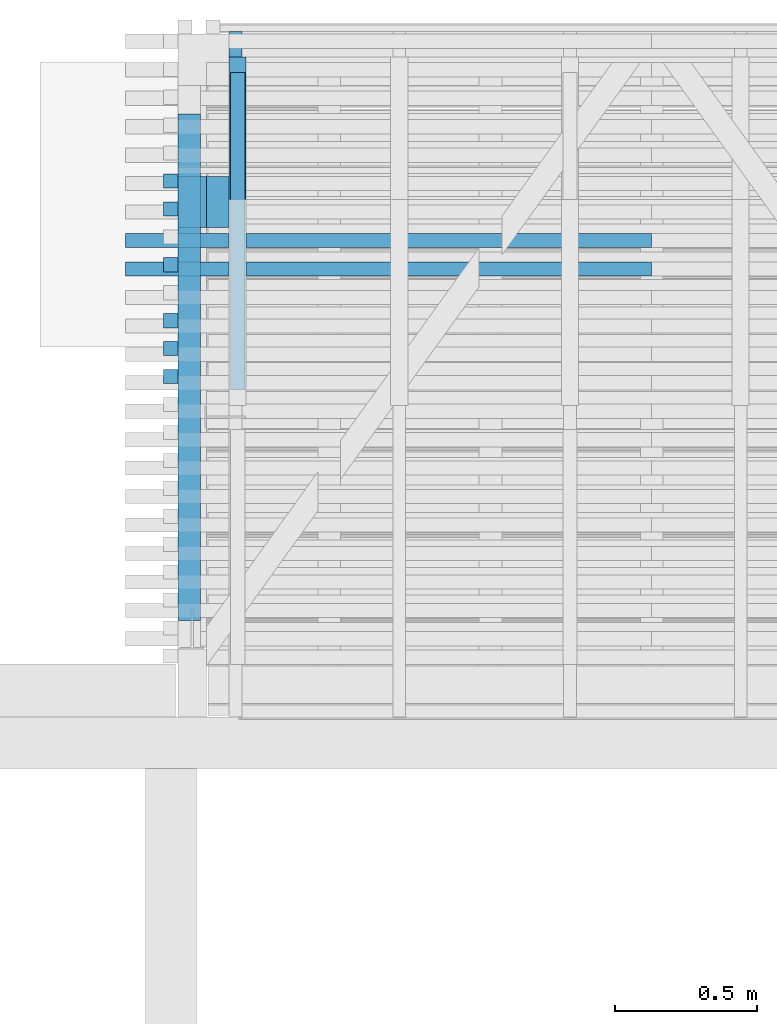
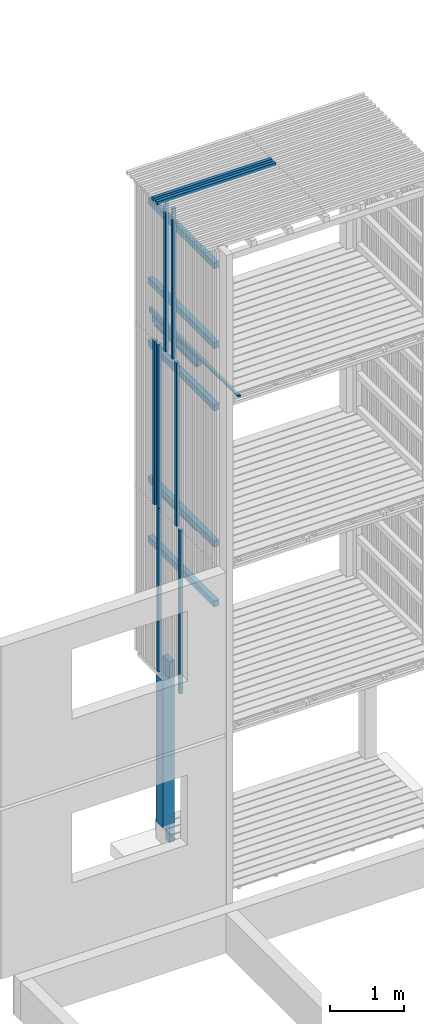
# One storey, part 12 of 182: 19 beams.
"""IFC2X3 building model written with IfcOpenShell, lengths in metres."""

from ifc_helpers import new_model, si_unit, frame, origin, place, context, project, spatial, faceted_brep, element, save


model = new_model("IFC2X3")

# Units and contexts
model_context = context("Model", 3, precision=1e-06, world=origin())
ifc_project = project(units=[si_unit("LENGTHUNIT", "METRE"), si_unit("PLANEANGLEUNIT", "RADIAN")], contexts=[model_context])

# Site, building, storey
site = spatial("IfcSite", under=ifc_project, CompositionType="ELEMENT")
building = spatial("IfcBuilding", under=site, CompositionType="ELEMENT")
storey = spatial("IfcBuildingStorey", under=building, Name="vs", CompositionType="ELEMENT", Elevation=-0.85)

# Beams
placement = place(None, origin())
beam_1_placement = place(placement, frame((3.404197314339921, 12.280077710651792, -0.259999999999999), z_axis=(0.0, -1.0, 0.0), x_axis=(0.0, 0.0, 1.0)))
element("IfcBeam", 1, at=beam_1_placement, inside=storey, Name="Poteau", context=model_context, shape_type="Brep", body=[
    faceted_brep([(0.0, -0.010000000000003, 0.090000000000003), (0.0, -0.010000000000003, -0.009999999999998), (0.0, -0.090000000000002, -0.009999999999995), (0.0, -0.090000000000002, 0.090000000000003), (0.280000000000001, -0.010000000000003, -0.089999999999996), (0.28, -0.010000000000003, 0.090000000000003), (0.28, 0.089999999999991, 0.090000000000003), (0.280000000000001, 0.089999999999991, -0.089999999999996), (0.200000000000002, -0.090000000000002, -0.009999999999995), (0.200000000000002, -0.010000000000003, -0.009999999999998), (0.200000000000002, -0.010000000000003, -0.089999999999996), (0.200000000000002, -0.090000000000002, -0.089999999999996), (0.0, -0.010000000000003, -0.009999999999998), (0.0, -0.010000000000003, 0.090000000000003), (0.28, -0.010000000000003, 0.090000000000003), (0.280000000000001, -0.010000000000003, -0.089999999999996), (0.200000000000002, -0.010000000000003, -0.089999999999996), (0.200000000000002, -0.010000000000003, -0.009999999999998), (0.0, -0.010000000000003, -0.009999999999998), (0.200000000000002, -0.010000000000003, -0.009999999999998), (0.200000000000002, -0.090000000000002, -0.009999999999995), (0.0, -0.090000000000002, -0.009999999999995), (0.280000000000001, 0.089999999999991, -0.089999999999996), (0.28, 0.089999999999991, 0.090000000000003), (2.699999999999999, 0.089999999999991, 0.090000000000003), (2.699999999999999, 0.089999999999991, -0.089999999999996), (2.979999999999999, -0.010000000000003, 0.090000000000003), (2.699999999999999, -0.010000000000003, 0.090000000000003), (2.699999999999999, 0.089999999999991, 0.090000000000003), (0.28, 0.089999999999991, 0.090000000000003), (0.28, -0.010000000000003, 0.090000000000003), (0.0, -0.010000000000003, 0.090000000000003), (0.0, -0.090000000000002, 0.090000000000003), (2.979999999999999, -0.090000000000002, 0.090000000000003), (2.979999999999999, -0.090000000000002, 0.090000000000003), (0.0, -0.090000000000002, 0.090000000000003), (0.0, -0.090000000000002, -0.009999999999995), (0.200000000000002, -0.090000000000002, -0.009999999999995), (0.200000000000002, -0.090000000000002, -0.089999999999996), (2.979999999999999, -0.090000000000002, -0.089999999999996), (2.979999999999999, -0.010000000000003, -0.089999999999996), (2.979999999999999, -0.090000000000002, -0.089999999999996), (0.200000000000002, -0.090000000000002, -0.089999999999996), (0.200000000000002, -0.010000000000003, -0.089999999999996), (0.280000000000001, -0.010000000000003, -0.089999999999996), (0.280000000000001, 0.089999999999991, -0.089999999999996), (2.699999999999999, 0.089999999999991, -0.089999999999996), (2.699999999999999, -0.010000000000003, -0.089999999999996), (2.699999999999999, -0.010000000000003, -0.089999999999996), (2.699999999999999, 0.089999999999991, -0.089999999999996), (2.699999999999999, 0.089999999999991, 0.090000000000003), (2.699999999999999, -0.010000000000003, 0.090000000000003), (2.979999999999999, -0.010000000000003, -0.089999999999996), (2.699999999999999, -0.010000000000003, -0.089999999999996), (2.699999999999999, -0.010000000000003, 0.090000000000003), (2.979999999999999, -0.010000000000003, 0.090000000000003), (2.979999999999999, -0.010000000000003, -0.089999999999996), (2.979999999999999, -0.010000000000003, 0.090000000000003), (2.979999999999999, -0.090000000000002, 0.090000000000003), (2.979999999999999, -0.090000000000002, -0.089999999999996)], [[[0, 1, 2, 3]], [[4, 5, 6, 7]], [[8, 9, 10, 11]], [[12, 13, 14, 15, 16, 17]], [[18, 19, 20, 21]], [[22, 23, 24, 25]], [[26, 27, 28, 29, 30, 31, 32, 33]], [[34, 35, 36, 37, 38, 39]], [[40, 41, 42, 43, 44, 45, 46, 47]], [[48, 49, 50, 51]], [[52, 53, 54, 55]], [[56, 57, 58, 59]]]),
])
for number, where, z_axis, x_axis, name in (
    (2, (3.354197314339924, 10.810077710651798, 4.543749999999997), (0.0, 0.0, 1.0), (0.0, 1.0, 0.0), "Support bardage"),
    (3, (3.354197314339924, 10.810077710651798, 8.80124999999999), (0.0, 0.0, 1.0), (0.0, 1.0, 0.0), "Support bardage"),
):
    element("IfcBeam", number, at=place(placement, frame(where, z_axis=z_axis, x_axis=x_axis)), inside=storey, Name=name, context=model_context, shape_type="Brep", body=[
        faceted_brep([(1.779999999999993, 0.039999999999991, -0.050000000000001), (1.779999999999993, 0.039999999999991, 0.050000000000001), (1.779999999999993, -0.040000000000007, 0.050000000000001), (1.779999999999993, -0.040000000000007, -0.050000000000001), (1.779999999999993, -0.040000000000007, 0.050000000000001), (1.779999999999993, 0.039999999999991, 0.050000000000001), (-4e-15, 0.039999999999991, 0.050000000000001), (-4e-15, -0.040000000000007, 0.050000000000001), (-4e-15, 0.039999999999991, 0.050000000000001), (1.779999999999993, 0.039999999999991, 0.050000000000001), (1.779999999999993, 0.039999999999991, -0.050000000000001), (-4e-15, 0.039999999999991, -0.050000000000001), (1.779999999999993, -0.040000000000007, -0.050000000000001), (1.779999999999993, -0.040000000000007, 0.050000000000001), (-4e-15, -0.040000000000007, 0.050000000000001), (-4e-15, -0.040000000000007, -0.050000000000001), (-4e-15, 0.039999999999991, -0.050000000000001), (1.779999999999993, 0.039999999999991, -0.050000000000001), (1.779999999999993, -0.040000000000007, -0.050000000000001), (-4e-15, -0.040000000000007, -0.050000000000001), (-4e-15, 0.039999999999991, 0.050000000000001), (-4e-15, 0.039999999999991, -0.050000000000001), (-4e-15, -0.040000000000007, -0.050000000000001), (-4e-15, -0.040000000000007, 0.050000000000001)], [[[0, 1, 2, 3]], [[4, 5, 6, 7]], [[8, 9, 10, 11]], [[12, 13, 14, 15]], [[16, 17, 18, 19]], [[20, 21, 22, 23]]]),
    ])
beam_2_placement = place(placement, frame((3.289197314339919, 12.25598680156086, 5.274999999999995), z_axis=(1.0, 0.0, 0.0), x_axis=(0.0, 0.0, 1.0)))
element("IfcBeam", 4, at=beam_2_placement, inside=storey, Name="Bardage", context=model_context, shape_type="Brep", body=[
    faceted_brep([(2.699999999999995, 0.024999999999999, 0.025000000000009), (2.699999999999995, -0.025000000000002, 0.025000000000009), (2.699999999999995, -0.025000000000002, -0.025000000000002), (2.699999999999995, 0.024999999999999, -0.025000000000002), (1e-15, 0.024999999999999, 0.025000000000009), (2.699999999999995, 0.024999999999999, 0.025000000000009), (2.699999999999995, 0.024999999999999, -0.025000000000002), (1e-15, 0.024999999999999, -0.025000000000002), (1e-15, -0.025000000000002, 0.025000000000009), (1e-15, 0.024999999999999, 0.025000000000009), (1e-15, 0.024999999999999, -0.025000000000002), (1e-15, -0.025000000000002, -0.025000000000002), (1e-15, 0.024999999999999, 0.025000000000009), (1e-15, -0.025000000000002, 0.025000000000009), (2.699999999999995, -0.025000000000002, 0.025000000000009), (2.699999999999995, 0.024999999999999, 0.025000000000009), (1e-15, -0.025000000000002, 0.025000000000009), (1e-15, -0.025000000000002, -0.025000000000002), (2.699999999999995, -0.025000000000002, -0.025000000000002), (2.699999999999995, -0.025000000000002, 0.025000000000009), (1e-15, -0.025000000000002, -0.025000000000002), (1e-15, 0.024999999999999, -0.025000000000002), (2.699999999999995, 0.024999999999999, -0.025000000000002), (2.699999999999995, -0.025000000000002, -0.025000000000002)], [[[0, 1, 2, 3]], [[4, 5, 6, 7]], [[8, 9, 10, 11]], [[12, 13, 14, 15]], [[16, 17, 18, 19]], [[20, 21, 22, 23]]]),
])
beam_3_placement = place(placement, frame((3.354197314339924, 10.810077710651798, 10.114999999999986), z_axis=(0.0, 0.0, 1.0), x_axis=(0.0, 1.0, 0.0)))
element("IfcBeam", 5, at=beam_3_placement, inside=storey, Name="Support bardage", context=model_context, shape_type="Brep", body=[
    faceted_brep([(1.779999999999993, 0.039999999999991, -0.050000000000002), (1.779999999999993, 0.039999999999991, 0.050000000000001), (1.779999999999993, -0.040000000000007, 0.050000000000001), (1.779999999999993, -0.040000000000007, -0.050000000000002), (1.779999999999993, -0.040000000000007, 0.050000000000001), (1.779999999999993, 0.039999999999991, 0.050000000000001), (-4e-15, 0.039999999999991, 0.050000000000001), (-4e-15, -0.040000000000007, 0.050000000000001), (-4e-15, 0.039999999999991, 0.050000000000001), (1.779999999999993, 0.039999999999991, 0.050000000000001), (1.779999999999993, 0.039999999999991, -0.050000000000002), (-4e-15, 0.039999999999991, -0.050000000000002), (1.779999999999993, -0.040000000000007, -0.050000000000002), (1.779999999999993, -0.040000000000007, 0.050000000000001), (-4e-15, -0.040000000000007, 0.050000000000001), (-4e-15, -0.040000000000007, -0.050000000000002), (-4e-15, 0.039999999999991, -0.050000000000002), (1.779999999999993, 0.039999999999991, -0.050000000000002), (1.779999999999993, -0.040000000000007, -0.050000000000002), (-4e-15, -0.040000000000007, -0.050000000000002), (-4e-15, 0.039999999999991, 0.050000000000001), (-4e-15, 0.039999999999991, -0.050000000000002), (-4e-15, -0.040000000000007, -0.050000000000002), (-4e-15, -0.040000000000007, 0.050000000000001)], [[[0, 1, 2, 3]], [[4, 5, 6, 7]], [[8, 9, 10, 11]], [[12, 13, 14, 15]], [[16, 17, 18, 19]], [[20, 21, 22, 23]]]),
])
beam_4_placement = place(placement, frame((3.354197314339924, 10.810077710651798, 5.529999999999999), z_axis=(0.0, 0.0, 1.0), x_axis=(0.0, 1.0, 0.0)))
element("IfcBeam", 6, at=beam_4_placement, inside=storey, Name="Support bardage", context=model_context, shape_type="Brep", body=[
    faceted_brep([(1.779999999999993, 0.039999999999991, -0.050000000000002), (1.779999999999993, 0.039999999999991, 0.05), (1.779999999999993, -0.040000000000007, 0.05), (1.779999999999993, -0.040000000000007, -0.050000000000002), (1.779999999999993, -0.040000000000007, 0.05), (1.779999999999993, 0.039999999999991, 0.05), (-4e-15, 0.039999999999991, 0.05), (-4e-15, -0.040000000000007, 0.05), (-4e-15, 0.039999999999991, 0.05), (1.779999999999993, 0.039999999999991, 0.05), (1.779999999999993, 0.039999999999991, -0.050000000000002), (-4e-15, 0.039999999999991, -0.050000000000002), (1.779999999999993, -0.040000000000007, -0.050000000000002), (1.779999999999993, -0.040000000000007, 0.05), (-4e-15, -0.040000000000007, 0.05), (-4e-15, -0.040000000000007, -0.050000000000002), (-4e-15, 0.039999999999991, -0.050000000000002), (1.779999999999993, 0.039999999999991, -0.050000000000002), (1.779999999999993, -0.040000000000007, -0.050000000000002), (-4e-15, -0.040000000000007, -0.050000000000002), (-4e-15, 0.039999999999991, 0.05), (-4e-15, 0.039999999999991, -0.050000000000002), (-4e-15, -0.040000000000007, -0.050000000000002), (-4e-15, -0.040000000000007, 0.05)], [[[0, 1, 2, 3]], [[4, 5, 6, 7]], [[8, 9, 10, 11]], [[12, 13, 14, 15]], [[16, 17, 18, 19]], [[20, 21, 22, 23]]]),
])
beam_5_placement = place(placement, frame((3.524197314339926, 12.735077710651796, 5.217399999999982), z_axis=(0.0, 0.0, 1.0), x_axis=(0.0, -1.0, 0.0)))
element("IfcBeam", 7, at=beam_5_placement, inside=storey, Name="Calage", context=model_context, shape_type="Brep", body=[
    faceted_brep([(0.0, 0.025000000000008, -0.024999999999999), (0.0, -0.024999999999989, -0.024999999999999), (0.0, -0.024999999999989, 0.024999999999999), (0.0, 0.025000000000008, 0.024999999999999), (1.115000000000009, -0.024999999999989, 0.024999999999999), (1.115000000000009, -0.024999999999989, -0.024999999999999), (1.115000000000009, 0.025000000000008, -0.024999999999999), (1.115000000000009, 0.025000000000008, 0.024999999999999), (0.0, -0.024999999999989, 0.024999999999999), (0.0, -0.024999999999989, -0.024999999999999), (1.115000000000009, -0.024999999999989, -0.024999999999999), (1.115000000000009, -0.024999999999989, 0.024999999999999), (1.115000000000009, -0.024999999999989, -0.024999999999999), (0.0, -0.024999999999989, -0.024999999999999), (0.0, 0.025000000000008, -0.024999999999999), (1.115000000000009, 0.025000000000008, -0.024999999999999), (1.115000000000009, 0.025000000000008, -0.024999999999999), (0.0, 0.025000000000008, -0.024999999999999), (0.0, 0.025000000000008, 0.024999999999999), (1.115000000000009, 0.025000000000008, 0.024999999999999), (1.115000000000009, 0.025000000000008, 0.024999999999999), (0.0, 0.025000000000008, 0.024999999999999), (0.0, -0.024999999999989, 0.024999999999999), (1.115000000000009, -0.024999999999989, 0.024999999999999)], [[[0, 1, 2, 3]], [[4, 5, 6, 7]], [[8, 9, 10, 11]], [[12, 13, 14, 15]], [[16, 17, 18, 19]], [[20, 21, 22, 23]]]),
])
beam_6_placement = place(placement, frame((3.516697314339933, 10.470077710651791, 8.084400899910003), z_axis=(0.0, 0.0, 1.0), x_axis=(0.0, 1.0, 0.0)))
element("IfcBeam", 8, at=beam_6_placement, inside=storey, Name="Calage", context=model_context, shape_type="Brep", body=[
    faceted_brep([(2.41000000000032, -0.022499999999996, -0.035599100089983), (0.0, -0.022499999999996, 0.012600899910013), (0.0, 0.022500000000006, 0.012600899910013), (2.41000000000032, 0.022500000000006, -0.035599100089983), (0.0, 0.022500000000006, 0.035599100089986), (0.0, 0.022500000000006, 0.012600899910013), (0.0, -0.022499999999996, 0.012600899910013), (0.0, -0.022499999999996, 0.035599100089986), (2.41000000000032, 0.022500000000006, -0.035599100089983), (0.0, 0.022500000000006, 0.012600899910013), (0.0, 0.022500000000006, 0.035599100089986), (2.41000000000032, 0.022500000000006, 0.035599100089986), (2.41000000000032, -0.022499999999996, 0.035599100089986), (0.0, -0.022499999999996, 0.035599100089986), (0.0, -0.022499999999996, 0.012600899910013), (2.41000000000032, -0.022499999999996, -0.035599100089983), (2.41000000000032, 0.022500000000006, 0.035599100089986), (0.0, 0.022500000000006, 0.035599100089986), (0.0, -0.022499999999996, 0.035599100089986), (2.41000000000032, -0.022499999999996, 0.035599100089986), (2.41000000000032, 0.022500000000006, -0.035599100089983), (2.41000000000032, 0.022500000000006, 0.035599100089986), (2.41000000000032, -0.022499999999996, 0.035599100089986), (2.41000000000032, -0.022499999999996, -0.035599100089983)], [[[0, 1, 2, 3]], [[4, 5, 6, 7]], [[8, 9, 10, 11]], [[12, 13, 14, 15]], [[16, 17, 18, 19]], [[20, 21, 22, 23]]]),
])
beam_7_placement = place(placement, frame((3.289197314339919, 12.25598680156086, 2.575000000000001), z_axis=(1.0, 0.0, 0.0), x_axis=(0.0, 0.0, 1.0)))
element("IfcBeam", 9, at=beam_7_placement, inside=storey, Name="Bardage", context=model_context, shape_type="Brep", body=[
    faceted_brep([(2.699961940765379, -0.025000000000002, 0.025000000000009), (2.699961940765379, -0.025000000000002, -0.025000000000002), (2.699961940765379, 0.024999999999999, -0.025000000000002), (2.699961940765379, 0.024999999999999, 0.025000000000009), (0.0, -0.025000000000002, 0.025000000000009), (2.699961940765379, -0.025000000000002, 0.025000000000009), (2.699961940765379, 0.024999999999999, 0.025000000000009), (0.0, 0.024999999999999, 0.025000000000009), (0.0, -0.025000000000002, 0.025000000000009), (0.0, 0.024999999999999, 0.025000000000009), (0.0, 0.024999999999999, -0.025000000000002), (0.0, -0.025000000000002, -0.025000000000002), (0.0, -0.025000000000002, 0.025000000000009), (0.0, -0.025000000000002, -0.025000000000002), (2.699961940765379, -0.025000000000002, -0.025000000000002), (2.699961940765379, -0.025000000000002, 0.025000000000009), (0.0, -0.025000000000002, -0.025000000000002), (0.0, 0.024999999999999, -0.025000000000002), (2.699961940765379, 0.024999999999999, -0.025000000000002), (2.699961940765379, -0.025000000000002, -0.025000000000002), (0.0, 0.024999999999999, -0.025000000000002), (0.0, 0.024999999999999, 0.025000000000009), (2.699961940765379, 0.024999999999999, 0.025000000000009), (2.699961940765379, 0.024999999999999, -0.025000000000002)], [[[0, 1, 2, 3]], [[4, 5, 6, 7]], [[8, 9, 10, 11]], [[12, 13, 14, 15]], [[16, 17, 18, 19]], [[20, 21, 22, 23]]]),
])
beam_8_placement = place(placement, frame((3.289197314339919, 12.059623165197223, 7.974999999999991), z_axis=(1.0, 0.0, 0.0), x_axis=(0.0, 0.0, 1.0)))
element("IfcBeam", 10, at=beam_8_placement, inside=storey, Name="Bardage", context=model_context, shape_type="Brep", body=[
    faceted_brep([(0.0, -0.025000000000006, 0.025000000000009), (0.0, 0.024999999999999, 0.025000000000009), (0.0, 0.024999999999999, -0.025000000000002), (0.0, -0.025000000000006, -0.025000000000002), (2.479999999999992, 0.024999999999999, -0.025000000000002), (2.479999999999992, 0.024999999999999, 0.025000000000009), (2.479999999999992, -0.025000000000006, 0.025000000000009), (2.479999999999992, -0.025000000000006, -0.025000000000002), (0.0, 0.024999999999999, 0.025000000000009), (0.0, -0.025000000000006, 0.025000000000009), (2.479999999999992, -0.025000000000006, 0.025000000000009), (2.479999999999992, 0.024999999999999, 0.025000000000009), (0.0, 0.024999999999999, -0.025000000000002), (0.0, 0.024999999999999, 0.025000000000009), (2.479999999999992, 0.024999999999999, 0.025000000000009), (2.479999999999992, 0.024999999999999, -0.025000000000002), (0.0, -0.025000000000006, -0.025000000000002), (0.0, 0.024999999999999, -0.025000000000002), (2.479999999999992, 0.024999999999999, -0.025000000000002), (2.479999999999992, -0.025000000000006, -0.025000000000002), (2.479999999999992, -0.025000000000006, 0.025000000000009), (0.0, -0.025000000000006, 0.025000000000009), (0.0, -0.025000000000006, -0.025000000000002), (2.479999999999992, -0.025000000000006, -0.025000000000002)], [[[0, 1, 2, 3]], [[4, 5, 6, 7]], [[8, 9, 10, 11]], [[12, 13, 14, 15]], [[16, 17, 18, 19]], [[20, 21, 22, 23]]]),
])
beam_9_placement = place(placement, frame((4.979197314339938, 12.145077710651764, 10.47999999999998), z_axis=(0.0, 0.0, 1.0), x_axis=(-1.0, 0.0, 0.0)))
element("IfcBeam", 11, at=beam_9_placement, inside=storey, Name="Bardage", context=model_context, shape_type="Brep", body=[
    faceted_brep([(1.850000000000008, -0.024999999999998, -0.024999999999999), (1.850000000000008, -0.024999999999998, 0.025000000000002), (-1e-15, -0.025000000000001, 0.025000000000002), (-1e-15, -0.025000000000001, -0.024999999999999), (1.850000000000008, -0.024999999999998, 0.025000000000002), (1.850000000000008, -0.024999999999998, -0.024999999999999), (1.850000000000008, 0.024999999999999, -0.024999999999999), (1.850000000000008, 0.024999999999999, 0.025000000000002), (1.850000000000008, 0.024999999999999, -0.024999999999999), (1.850000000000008, -0.024999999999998, -0.024999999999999), (-1e-15, -0.025000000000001, -0.024999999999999), (-1e-15, 0.024999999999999, -0.024999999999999), (1.850000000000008, 0.024999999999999, 0.025000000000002), (1.850000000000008, 0.024999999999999, -0.024999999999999), (-1e-15, 0.024999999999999, -0.024999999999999), (-1e-15, 0.024999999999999, 0.025000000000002), (-1e-15, -0.025000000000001, 0.025000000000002), (1.850000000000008, -0.024999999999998, 0.025000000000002), (1.850000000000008, 0.024999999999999, 0.025000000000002), (-1e-15, 0.024999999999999, 0.025000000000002), (-1e-15, -0.025000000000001, -0.024999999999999), (-1e-15, -0.025000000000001, 0.025000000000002), (-1e-15, 0.024999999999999, 0.025000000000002), (-1e-15, 0.024999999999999, -0.024999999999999)], [[[0, 1, 2, 3]], [[4, 5, 6, 7]], [[8, 9, 10, 11]], [[12, 13, 14, 15]], [[16, 17, 18, 19]], [[20, 21, 22, 23]]]),
])
beam_10_placement = place(placement, frame((3.289197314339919, 11.765077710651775, 5.274999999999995), z_axis=(1.0, 0.0, 0.0), x_axis=(0.0, 1e-15, 1.0)))
element("IfcBeam", 12, at=beam_10_placement, inside=storey, Name="Bardage", context=model_context, shape_type="Brep", body=[
    faceted_brep([(2.699999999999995, 0.025000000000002, 0.025000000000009), (2.699999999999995, -0.025000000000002, 0.025000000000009), (2.699999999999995, -0.025000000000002, -0.025000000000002), (2.699999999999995, 0.025000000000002, -0.025000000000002), (1e-15, 0.024999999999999, 0.025000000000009), (2.699999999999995, 0.025000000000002, 0.025000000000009), (2.699999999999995, 0.025000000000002, -0.025000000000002), (1e-15, 0.024999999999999, -0.025000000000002), (1e-15, -0.025000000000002, 0.025000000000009), (1e-15, 0.024999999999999, 0.025000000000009), (1e-15, 0.024999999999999, -0.025000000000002), (1e-15, -0.025000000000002, -0.025000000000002), (1e-15, 0.024999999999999, 0.025000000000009), (1e-15, -0.025000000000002, 0.025000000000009), (2.699999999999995, -0.025000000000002, 0.025000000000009), (2.699999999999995, 0.025000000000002, 0.025000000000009), (1e-15, -0.025000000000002, 0.025000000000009), (1e-15, -0.025000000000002, -0.025000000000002), (2.699999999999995, -0.025000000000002, -0.025000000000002), (2.699999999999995, -0.025000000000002, 0.025000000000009), (1e-15, -0.025000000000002, -0.025000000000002), (1e-15, 0.024999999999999, -0.025000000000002), (2.699999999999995, 0.025000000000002, -0.025000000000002), (2.699999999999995, -0.025000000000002, -0.025000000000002)], [[[0, 1, 2, 3]], [[4, 5, 6, 7]], [[8, 9, 10, 11]], [[12, 13, 14, 15]], [[16, 17, 18, 19]], [[20, 21, 22, 23]]]),
])
beam_11_placement = place(placement, frame((3.289197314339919, 12.35416861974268, 5.274999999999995), z_axis=(1.0, 0.0, 0.0), x_axis=(0.0, 0.0, 1.0)))
element("IfcBeam", 13, at=beam_11_placement, inside=storey, Name="Bardage", context=model_context, shape_type="Brep", body=[
    faceted_brep([(2.699999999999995, 0.025000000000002, 0.025000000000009), (2.699999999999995, -0.024999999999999, 0.025000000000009), (2.699999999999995, -0.024999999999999, -0.025000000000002), (2.699999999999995, 0.025000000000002, -0.025000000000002), (1e-15, 0.025000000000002, 0.025000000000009), (2.699999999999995, 0.025000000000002, 0.025000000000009), (2.699999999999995, 0.025000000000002, -0.025000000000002), (1e-15, 0.025000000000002, -0.025000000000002), (1e-15, -0.024999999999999, 0.025000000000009), (1e-15, 0.025000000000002, 0.025000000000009), (1e-15, 0.025000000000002, -0.025000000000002), (1e-15, -0.024999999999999, -0.025000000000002), (1e-15, 0.025000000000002, 0.025000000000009), (1e-15, -0.024999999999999, 0.025000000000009), (2.699999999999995, -0.024999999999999, 0.025000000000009), (2.699999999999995, 0.025000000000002, 0.025000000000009), (1e-15, -0.024999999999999, 0.025000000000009), (1e-15, -0.024999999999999, -0.025000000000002), (2.699999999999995, -0.024999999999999, -0.025000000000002), (2.699999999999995, -0.024999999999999, 0.025000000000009), (1e-15, -0.024999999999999, -0.025000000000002), (1e-15, 0.025000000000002, -0.025000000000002), (2.699999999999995, 0.025000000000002, -0.025000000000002), (2.699999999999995, -0.024999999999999, -0.025000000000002)], [[[0, 1, 2, 3]], [[4, 5, 6, 7]], [[8, 9, 10, 11]], [[12, 13, 14, 15]], [[16, 17, 18, 19]], [[20, 21, 22, 23]]]),
])
beam_12_placement = place(placement, frame((3.524197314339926, 11.565077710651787, 8.00424999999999), z_axis=(0.0, 0.0, 1.0), x_axis=(0.0, 1.0, 0.0)))
element("IfcBeam", 14, at=beam_12_placement, inside=storey, Name="Solive", context=model_context, shape_type="Brep", body=[
    faceted_brep([(0.0, -0.030000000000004, -0.061849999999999), (1.225000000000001, -0.030000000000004, -0.061849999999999), (1.225000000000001, -0.030000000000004, 0.037349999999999), (0.0, -0.030000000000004, 0.061849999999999), (0.0, 0.029999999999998, -0.061849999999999), (1.225000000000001, 0.029999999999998, -0.061849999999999), (1.225000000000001, -0.030000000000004, -0.061849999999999), (0.0, -0.030000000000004, -0.061849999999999), (0.0, 0.029999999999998, 0.061850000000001), (0.0, 0.029999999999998, -0.061849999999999), (0.0, -0.030000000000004, -0.061849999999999), (0.0, -0.030000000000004, 0.061849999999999), (1.225000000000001, 0.029999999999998, -0.061849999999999), (0.0, 0.029999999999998, -0.061849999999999), (0.0, 0.029999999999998, 0.061850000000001), (1.225000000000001, 0.029999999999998, 0.037349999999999), (1.225000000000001, -0.030000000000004, 0.037349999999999), (1.225000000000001, -0.030000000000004, -0.061849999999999), (1.225000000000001, 0.029999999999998, -0.061849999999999), (1.225000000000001, 0.029999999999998, 0.037349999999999), (0.0, -0.030000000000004, 0.061849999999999), (1.225000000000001, -0.030000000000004, 0.037349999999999), (1.225000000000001, 0.029999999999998, 0.037349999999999), (0.0, 0.029999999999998, 0.061850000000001)], [[[0, 1, 2, 3]], [[4, 5, 6, 7]], [[8, 9, 10, 11]], [[12, 13, 14, 15]], [[16, 17, 18, 19]], [[20, 21, 22, 23]]]),
])
beam_13_placement = place(placement, frame((3.354197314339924, 10.810077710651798, 7.774999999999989), z_axis=(0.0, 0.0, 1.0), x_axis=(0.0, 1.0, 0.0)))
element("IfcBeam", 15, at=beam_13_placement, inside=storey, Name="Support bardage", context=model_context, shape_type="Brep", body=[
    faceted_brep([(1.779999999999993, 0.039999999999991, -0.050000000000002), (1.779999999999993, 0.039999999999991, 0.050000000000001), (1.779999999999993, -0.040000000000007, 0.050000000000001), (1.779999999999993, -0.040000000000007, -0.050000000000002), (1.779999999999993, -0.040000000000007, 0.050000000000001), (1.779999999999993, 0.039999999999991, 0.050000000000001), (-4e-15, 0.039999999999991, 0.050000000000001), (-4e-15, -0.040000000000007, 0.050000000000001), (-4e-15, 0.039999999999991, 0.050000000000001), (1.779999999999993, 0.039999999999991, 0.050000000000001), (1.779999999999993, 0.039999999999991, -0.050000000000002), (-4e-15, 0.039999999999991, -0.050000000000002), (1.779999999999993, -0.040000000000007, -0.050000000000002), (1.779999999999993, -0.040000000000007, 0.050000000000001), (-4e-15, -0.040000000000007, 0.050000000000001), (-4e-15, -0.040000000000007, -0.050000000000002), (-4e-15, 0.039999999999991, -0.050000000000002), (1.779999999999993, 0.039999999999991, -0.050000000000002), (1.779999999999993, -0.040000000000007, -0.050000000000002), (-4e-15, -0.040000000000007, -0.050000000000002), (-4e-15, 0.039999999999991, 0.050000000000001), (-4e-15, 0.039999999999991, -0.050000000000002), (-4e-15, -0.040000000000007, -0.050000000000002), (-4e-15, -0.040000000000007, 0.050000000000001)], [[[0, 1, 2, 3]], [[4, 5, 6, 7]], [[8, 9, 10, 11]], [[12, 13, 14, 15]], [[16, 17, 18, 19]], [[20, 21, 22, 23]]]),
])
beam_14_placement = place(placement, frame((4.979197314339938, 12.045077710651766, 10.47999999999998), z_axis=(0.0, 0.0, 1.0), x_axis=(-1.0, -2e-15, 0.0)))
element("IfcBeam", 16, at=beam_14_placement, inside=storey, Name="Bardage", context=model_context, shape_type="Brep", body=[
    faceted_brep([(1.850000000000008, -0.025000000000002, -0.024999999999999), (1.850000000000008, -0.025000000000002, 0.025000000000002), (-1e-15, -0.025000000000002, 0.025000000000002), (-1e-15, -0.025000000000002, -0.024999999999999), (1.850000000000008, -0.025000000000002, 0.025000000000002), (1.850000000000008, -0.025000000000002, -0.024999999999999), (1.850000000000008, 0.024999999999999, -0.024999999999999), (1.850000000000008, 0.024999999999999, 0.025000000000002), (1.850000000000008, 0.024999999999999, -0.024999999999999), (1.850000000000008, -0.025000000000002, -0.024999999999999), (-1e-15, -0.025000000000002, -0.024999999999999), (-1e-15, 0.025000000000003, -0.024999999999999), (1.850000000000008, 0.024999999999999, 0.025000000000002), (1.850000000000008, 0.024999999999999, -0.024999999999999), (-1e-15, 0.025000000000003, -0.024999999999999), (-1e-15, 0.025000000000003, 0.025000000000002), (-1e-15, -0.025000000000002, 0.025000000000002), (1.850000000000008, -0.025000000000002, 0.025000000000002), (1.850000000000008, 0.024999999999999, 0.025000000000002), (-1e-15, 0.025000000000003, 0.025000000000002), (-1e-15, -0.025000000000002, -0.024999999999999), (-1e-15, -0.025000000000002, 0.025000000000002), (-1e-15, 0.025000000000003, 0.025000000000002), (-1e-15, 0.025000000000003, -0.024999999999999)], [[[0, 1, 2, 3]], [[4, 5, 6, 7]], [[8, 9, 10, 11]], [[12, 13, 14, 15]], [[16, 17, 18, 19]], [[20, 21, 22, 23]]]),
])
beam_15_placement = place(placement, frame((3.524197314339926, 12.735077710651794, 7.91739999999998), z_axis=(0.0, 0.0, 1.0), x_axis=(0.0, -1.0, 0.0)))
element("IfcBeam", 17, at=beam_15_placement, inside=storey, Name="Calage", context=model_context, shape_type="Brep", body=[
    faceted_brep([(2e-15, 0.025000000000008, -0.025), (2e-15, -0.024999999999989, -0.025), (2e-15, -0.024999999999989, 0.024999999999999), (2e-15, 0.025000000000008, 0.024999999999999), (1.115000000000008, -0.024999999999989, 0.024999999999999), (1.115000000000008, -0.024999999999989, -0.025), (1.115000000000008, 0.025000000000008, -0.025), (1.115000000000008, 0.025000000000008, 0.024999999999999), (2e-15, -0.024999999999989, 0.024999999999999), (2e-15, -0.024999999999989, -0.025), (1.115000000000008, -0.024999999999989, -0.025), (1.115000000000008, -0.024999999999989, 0.024999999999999), (1.115000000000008, -0.024999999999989, -0.025), (2e-15, -0.024999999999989, -0.025), (2e-15, 0.025000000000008, -0.025), (1.115000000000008, 0.025000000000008, -0.025), (1.115000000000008, 0.025000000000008, -0.025), (2e-15, 0.025000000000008, -0.025), (2e-15, 0.025000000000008, 0.024999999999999), (1.115000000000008, 0.025000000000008, 0.024999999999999), (1.115000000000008, 0.025000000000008, 0.024999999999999), (2e-15, 0.025000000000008, 0.024999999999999), (2e-15, -0.024999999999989, 0.024999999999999), (1.115000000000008, -0.024999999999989, 0.024999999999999)], [[[0, 1, 2, 3]], [[4, 5, 6, 7]], [[8, 9, 10, 11]], [[12, 13, 14, 15]], [[16, 17, 18, 19]], [[20, 21, 22, 23]]]),
])
beam_16_placement = place(placement, frame((3.289197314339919, 11.863259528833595, 7.974999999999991), z_axis=(1.0, 0.0, 0.0), x_axis=(0.0, 0.0, 1.0)))
element("IfcBeam", 18, at=beam_16_placement, inside=storey, Name="Bardage", context=model_context, shape_type="Brep", body=[
    faceted_brep([(0.0, -0.024999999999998, 0.025000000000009), (0.0, 0.025000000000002, 0.025000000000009), (0.0, 0.025000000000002, -0.025000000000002), (0.0, -0.024999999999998, -0.025000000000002), (2.479999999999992, 0.025000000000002, -0.025000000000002), (2.479999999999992, 0.025000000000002, 0.025000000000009), (2.479999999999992, -0.024999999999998, 0.025000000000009), (2.479999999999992, -0.024999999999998, -0.025000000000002), (0.0, 0.025000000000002, 0.025000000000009), (0.0, -0.024999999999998, 0.025000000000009), (2.479999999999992, -0.024999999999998, 0.025000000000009), (2.479999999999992, 0.025000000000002, 0.025000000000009), (0.0, 0.025000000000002, -0.025000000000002), (0.0, 0.025000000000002, 0.025000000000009), (2.479999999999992, 0.025000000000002, 0.025000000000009), (2.479999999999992, 0.025000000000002, -0.025000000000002), (0.0, -0.024999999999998, -0.025000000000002), (0.0, 0.025000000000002, -0.025000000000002), (2.479999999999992, 0.025000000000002, -0.025000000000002), (2.479999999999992, -0.024999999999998, -0.025000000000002), (2.479999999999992, -0.024999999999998, 0.025000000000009), (0.0, -0.024999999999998, 0.025000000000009), (0.0, -0.024999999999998, -0.025000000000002), (2.479999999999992, -0.024999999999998, -0.025000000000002)], [[[0, 1, 2, 3]], [[4, 5, 6, 7]], [[8, 9, 10, 11]], [[12, 13, 14, 15]], [[16, 17, 18, 19]], [[20, 21, 22, 23]]]),
])
beam_17_placement = place(placement, frame((3.289197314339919, 11.666895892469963, 2.575000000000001), z_axis=(1.0, 0.0, 0.0), x_axis=(0.0, 0.0, 1.0)))
element("IfcBeam", 19, at=beam_17_placement, inside=storey, Name="Bardage", context=model_context, shape_type="Brep", body=[
    faceted_brep([(2.699961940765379, -0.024999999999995, 0.025000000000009), (2.699961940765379, -0.024999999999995, -0.025000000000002), (2.699961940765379, 0.025000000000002, -0.025000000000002), (2.699961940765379, 0.025000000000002, 0.025000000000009), (0.0, -0.024999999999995, 0.025000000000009), (2.699961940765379, -0.024999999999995, 0.025000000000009), (2.699961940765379, 0.025000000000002, 0.025000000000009), (0.0, 0.025000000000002, 0.025000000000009), (0.0, -0.024999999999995, 0.025000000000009), (0.0, 0.025000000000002, 0.025000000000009), (0.0, 0.025000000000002, -0.025000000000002), (0.0, -0.024999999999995, -0.025000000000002), (0.0, -0.024999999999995, 0.025000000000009), (0.0, -0.024999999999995, -0.025000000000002), (2.699961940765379, -0.024999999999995, -0.025000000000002), (2.699961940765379, -0.024999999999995, 0.025000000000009), (0.0, -0.024999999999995, -0.025000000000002), (0.0, 0.025000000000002, -0.025000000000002), (2.699961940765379, 0.025000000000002, -0.025000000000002), (2.699961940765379, -0.024999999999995, -0.025000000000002), (0.0, 0.025000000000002, -0.025000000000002), (0.0, 0.025000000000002, 0.025000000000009), (2.699961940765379, 0.025000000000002, 0.025000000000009), (2.699961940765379, 0.025000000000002, -0.025000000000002)], [[[0, 1, 2, 3]], [[4, 5, 6, 7]], [[8, 9, 10, 11]], [[12, 13, 14, 15]], [[16, 17, 18, 19]], [[20, 21, 22, 23]]]),
])

save(model, "model.ifc")
